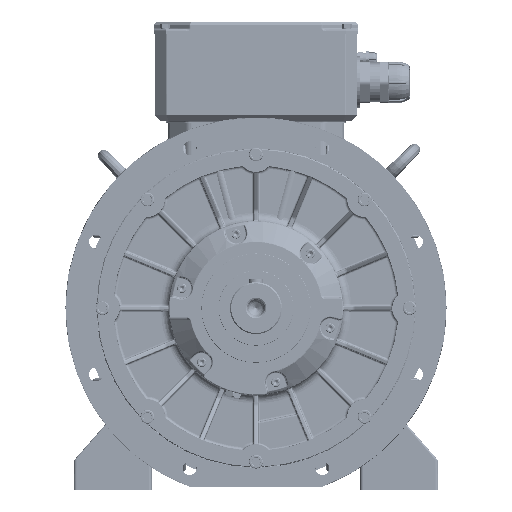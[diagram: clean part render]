
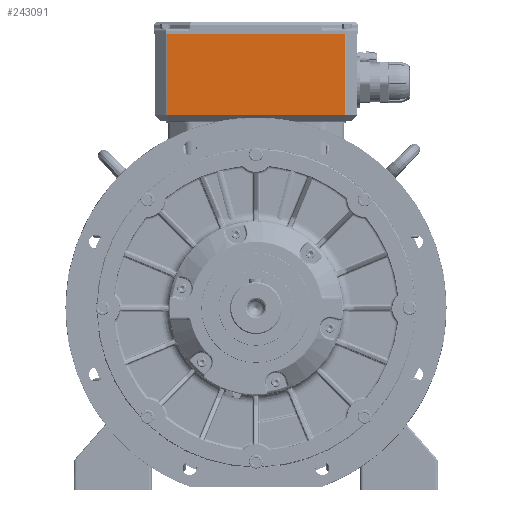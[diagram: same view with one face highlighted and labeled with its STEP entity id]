
A CAD part, front view. The second image highlights one B-rep face of the part: STEP entity #243091.
In plain terms, the highlighted planar face has unit normal (0, -1, 0).
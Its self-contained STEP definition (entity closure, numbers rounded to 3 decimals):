
#38929=ORIENTED_EDGE('',*,*,#77612,.T.);
#38930=ORIENTED_EDGE('',*,*,#77526,.F.);
#38931=ORIENTED_EDGE('',*,*,#77609,.T.);
#38932=ORIENTED_EDGE('',*,*,#77613,.T.);
#77526=EDGE_CURVE('',#98189,#98190,#111397,.T.);
#77609=EDGE_CURVE('',#98189,#98238,#111433,.T.);
#77612=EDGE_CURVE('',#98240,#98190,#111434,.F.);
#77613=EDGE_CURVE('',#98238,#98240,#111435,.T.);
#98189=VERTEX_POINT('',#369416);
#98190=VERTEX_POINT('',#369418);
#98238=VERTEX_POINT('',#369760);
#98240=VERTEX_POINT('',#369766);
#111397=LINE('',#369417,#127448);
#111433=LINE('',#369759,#127484);
#111434=LINE('',#369765,#127485);
#111435=LINE('',#369767,#127486);
#127448=VECTOR('',#287787,1000.);
#127484=VECTOR('',#287955,1000.);
#127485=VECTOR('',#287962,1000.);
#127486=VECTOR('',#287963,1000.);
#144750=EDGE_LOOP('',(#38929,#38930,#38931,#38932));
#157293=FACE_BOUND('',#144750,.T.);
#165281=PLANE('',#257674);
#243091=ADVANCED_FACE('',(#157293),#165281,.T.);
#257674=AXIS2_PLACEMENT_3D('',#369764,#287960,#287961);
#287787=DIRECTION('',(1.,0.,0.));
#287955=DIRECTION('',(0.,0.,-1.));
#287960=DIRECTION('',(0.,-1.,0.));
#287961=DIRECTION('',(1.,0.,0.));
#287962=DIRECTION('',(0.,0.,-1.));
#287963=DIRECTION('',(1.,0.,0.));
#369416=CARTESIAN_POINT('',(-153.757,40.,474.));
#369417=CARTESIAN_POINT('',(-177.5,40.,474.));
#369418=CARTESIAN_POINT('',(153.757,40.,474.));
#369759=CARTESIAN_POINT('',(-153.757,40.,476.5));
#369760=CARTESIAN_POINT('',(-153.757,40.,334.));
#369764=CARTESIAN_POINT('',(155.,40.,476.5));
#369765=CARTESIAN_POINT('',(153.757,40.,476.5));
#369766=CARTESIAN_POINT('',(153.757,40.,334.));
#369767=CARTESIAN_POINT('',(155.,40.,334.));
